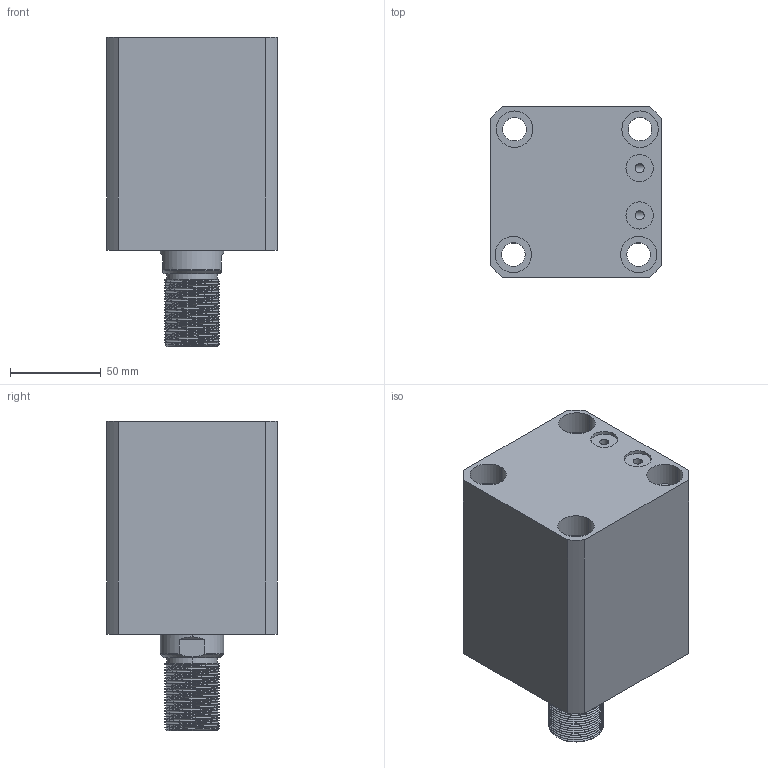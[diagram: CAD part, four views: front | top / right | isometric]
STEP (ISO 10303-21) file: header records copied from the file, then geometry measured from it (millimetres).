
FILE_DESCRIPTION (( 'STEP AP214' ), '1' );
FILE_NAME ('chtb-sdmb63x50w_asm.STEP', '2018-05-18T11:42:04', ( 'Windows' ), ( 'Microsoft' ), 'SwSTEP 2.0', 'SolidWorks 2015', '' );
FILE_SCHEMA (( 'AUTOMOTIVE_DESIGN' ));
Length unit declared in the file: millimetre
Products named in the file (4): chtb-sdmb63x50w_asm; CHTB-SDMB63X50NBT; CHTB63X50WHSG; CHTB-63QG
Assembly tree (3 placements, depth 2):
  chtb-sdmb63x50w_asm
    CHTB-63QG
    CHTB63X50WHSG
    CHTB-SDMB63X50NBT
Bounding box: 94 x 94 x 170 mm (x, y, z)
Volume: 872317.4 mm3; surface area: 150097 mm2
Topology: 3 solids, 3 shells, 218 faces, 628 edges, 427 vertices
Faces by surface type: cylinder 156, plane 33, bspline 14, cone 9, torus 6
Entity records: 22278 total; most frequent: CARTESIAN_POINT 17042, ORIENTED_EDGE 1248, DIRECTION 869, EDGE_CURVE 624, VERTEX_POINT 427, AXIS2_PLACEMENT_3D 339, EDGE_LOOP 251, ADVANCED_FACE 218
